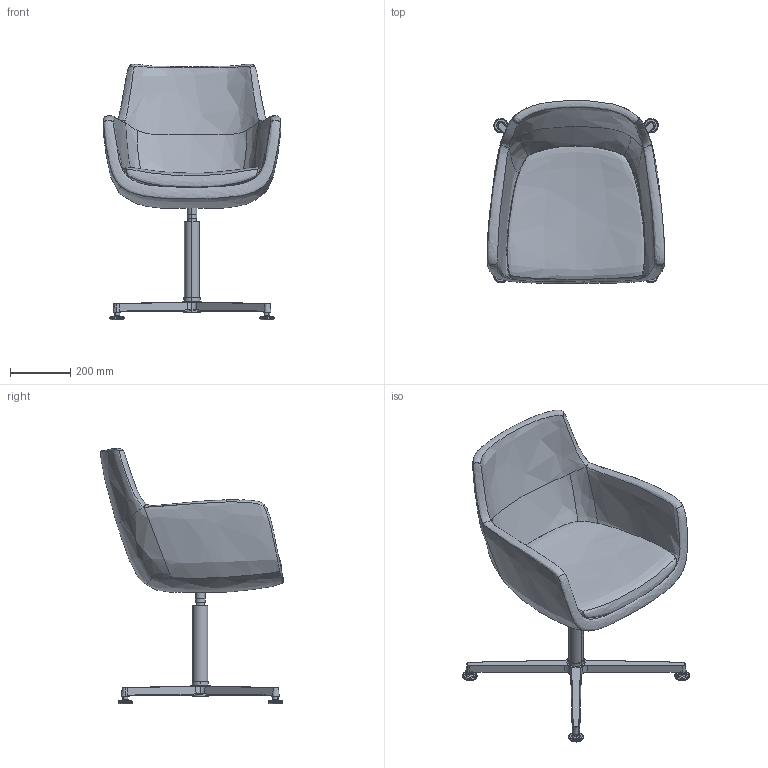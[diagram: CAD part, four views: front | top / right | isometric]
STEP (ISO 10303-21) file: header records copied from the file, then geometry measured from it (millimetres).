
FILE_DESCRIPTION(/* description */ (''),/* implementation_level */ '2;1');
FILE_NAME(/* name */ 'Tania TA 860-01',/* time_stamp */ '2021-04-08T13:34:13+02:00',/* author */ (''),/* organization */ (''),/* preprocessor_version */ 'ST-DEVELOPER v16.5',/* originating_system */ '',/* authorisation */ '');
FILE_SCHEMA (('CONFIG_CONTROL_DESIGN'));
Length unit declared in the file: millimetre
Products named in the file (1): Document
Bounding box: 590.71 x 608.03 x 850.47 mm (x, y, z)
Volume: 10134394.3 mm3; surface area: 1986923 mm2
Topology: 5 solids, 15 shells, 196 faces, 452 edges, 279 vertices
Faces by surface type: bspline 124, plane 44, cylinder 28
Entity records: 13760 total; most frequent: CARTESIAN_POINT 10960, ORIENTED_EDGE 835, EDGE_CURVE 449, VERTEX_POINT 273, B_SPLINE_CURVE_WITH_KNOTS 254, EDGE_LOOP 198, ADVANCED_FACE 196, FACE_OUTER_BOUND 196
